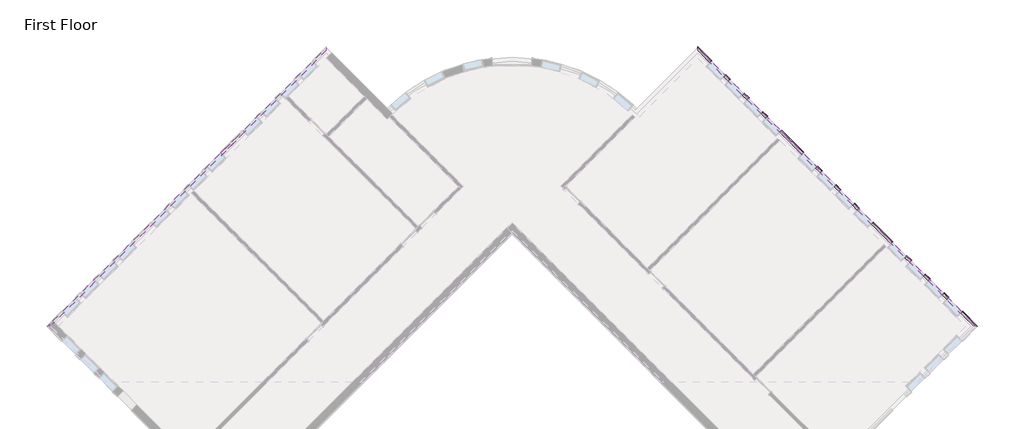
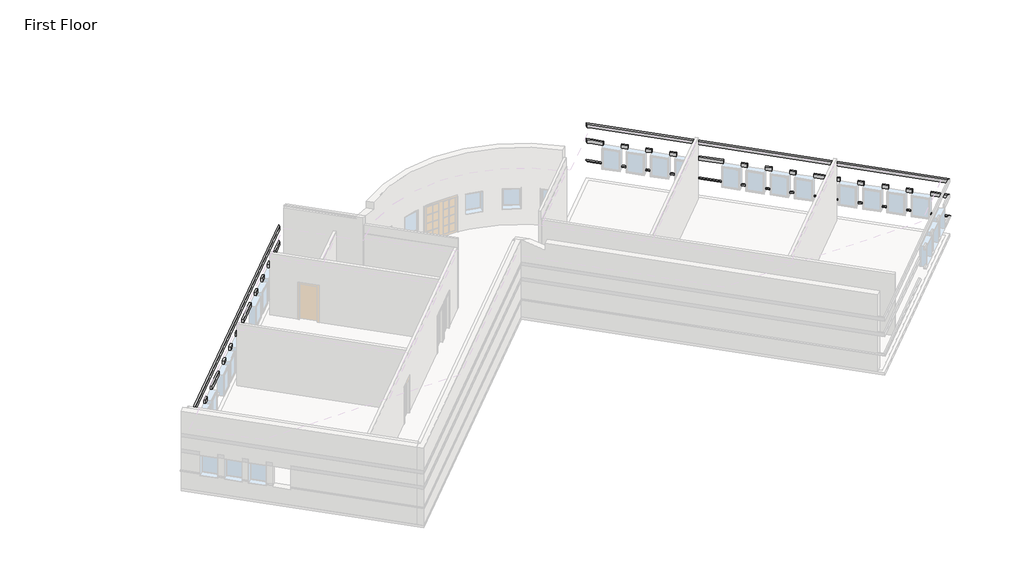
# One storey, part 4 of 4: 5 proxies.
"""IFC4 building model written with IfcOpenShell, lengths in millimetres."""

from ifc_helpers import new_model, si_unit, origin, place, context, project, spatial, faceted_brep, element, save

model = new_model("IFC4")

# Units and contexts
model_context = context("Model", 3, world=origin())
ifc_project = project(units=[si_unit("LENGTHUNIT", "METRE", prefix="MILLI")], contexts=[model_context])

# Site, building, storey
site = spatial("IfcSite", under=ifc_project)
building = spatial("IfcBuilding", under=site)
storey = spatial("IfcBuildingStorey", under=building, Name="First Floor", Elevation=0.0)

# Proxies
placement = place(None, origin())
element("IfcBuildingElementProxy", 1, Name="Wall Sweeps", at=placement, inside=storey, context=model_context, shape_type="Brep", body=[
    faceted_brep([(5753.0175119, 11443.3655905, 1085.85), (5753.0175119, 11573.5793042, 1085.85), (5753.0175119, 11622.9707129, 1041.4), (5753.0175119, 11622.9707129, 1016.0), (5753.0175119, 11443.3655905, 1016.0), (6317.415551, 10878.9675514, 1085.85), (6317.415551, 10878.9675514, 1016.0), (6382.5224079, 10944.0744083, 1016.0), (6407.2181122, 10968.7701126, 1016.0), (6407.2181122, 10968.7701126, 1041.4), (6382.5224079, 10944.0744083, 1085.85), (5937.1127624, 11259.27034, 1085.85), (5937.1127624, 11259.27034, 1016.0)], [[[0, 1, 2, 3, 4]], [[5, 6, 7, 8, 9, 10]], [[1, 0, 11, 5, 10]], [[2, 1, 10, 9]], [[3, 2, 9, 8]], [[4, 3, 8, 7, 6, 12]], [[0, 4, 12, 6, 5, 11]]]),
    faceted_brep([(6963.9939917, 10232.3891107, 1085.85), (7029.1008486, 10297.4959676, 1085.85), (7053.7965529, 10322.1916719, 1041.4), (7053.7965529, 10322.1916719, 1016.0), (7029.1008486, 10297.4959676, 1016.0), (6963.9939917, 10232.3891107, 1016.0), (7179.5201386, 10016.8629638, 1085.85), (7179.5201386, 10016.8629638, 1016.0), (7244.6269955, 10081.9698207, 1016.0), (7269.3226998, 10106.665525, 1016.0), (7269.3226998, 10106.665525, 1041.4), (7244.6269955, 10081.9698207, 1085.85)], [[[0, 1, 2, 3, 4, 5]], [[6, 7, 8, 9, 10, 11]], [[1, 0, 6, 11]], [[2, 1, 11, 10]], [[3, 2, 10, 9]], [[5, 4, 3, 9, 8, 7]], [[0, 5, 7, 6]]]),
    faceted_brep([(7826.0985793, 9370.2845231, 1085.85), (7891.2054362, 9435.39138, 1085.85), (7915.9011405, 9460.0870843, 1041.4), (7915.9011405, 9460.0870843, 1016.0), (7891.2054362, 9435.39138, 1016.0), (7826.0985793, 9370.2845231, 1016.0), (8041.6247262, 9154.7583762, 1085.85), (8041.6247262, 9154.7583762, 1016.0), (8106.7315831, 9219.8652331, 1016.0), (8131.4272874, 9244.5609374, 1016.0), (8131.4272874, 9244.5609374, 1041.4), (8106.7315831, 9219.8652331, 1085.85)], [[[0, 1, 2, 3, 4, 5]], [[6, 7, 8, 9, 10, 11]], [[1, 0, 6, 11]], [[2, 1, 11, 10]], [[3, 2, 10, 9]], [[5, 4, 3, 9, 8, 7]], [[0, 5, 7, 6]]]),
    faceted_brep([(8688.2031669, 8508.1799355, 1085.85), (8753.3100238, 8573.2867923, 1085.85), (8778.0057282, 8597.9824967, 1041.4), (8778.0057282, 8597.9824967, 1016.0), (8753.3100238, 8573.2867923, 1016.0), (8688.2031669, 8508.1799355, 1016.0), (8903.7293139, 8292.6537886, 1085.85), (8903.7293139, 8292.6537886, 1016.0), (8968.8361707, 8357.7606454, 1016.0), (8993.5318751, 8382.4563498, 1016.0), (8993.5318751, 8382.4563498, 1041.4), (8968.8361707, 8357.7606454, 1085.85)], [[[0, 1, 2, 3, 4, 5]], [[6, 7, 8, 9, 10, 11]], [[1, 0, 6, 11]], [[2, 1, 11, 10]], [[3, 2, 10, 9]], [[5, 4, 3, 9, 8, 7]], [[0, 5, 7, 6]]]),
    faceted_brep([(9550.3077546, 7646.0753478, 1085.85), (9615.4146114, 7711.1822047, 1085.85), (9640.1103158, 7735.877909, 1041.4), (9640.1103158, 7735.877909, 1016.0), (9615.4146114, 7711.1822047, 1016.0), (9550.3077546, 7646.0753478, 1016.0), (10574.7639411, 6621.6191613, 1085.85), (10574.7639411, 6621.6191613, 1016.0), (10639.870798, 6686.7260182, 1016.0), (10664.5665023, 6711.4217225, 1016.0), (10664.5665023, 6711.4217225, 1041.4), (10639.870798, 6686.7260182, 1085.85)], [[[0, 1, 2, 3, 4, 5]], [[6, 7, 8, 9, 10, 11]], [[1, 0, 6, 11]], [[2, 1, 11, 10]], [[3, 2, 10, 9]], [[5, 4, 3, 9, 8, 7]], [[0, 5, 7, 6]]]),
    faceted_brep([(11221.3423818, 5975.0407206, 1085.85), (11286.4492387, 6040.1475775, 1085.85), (11311.144943, 6064.8432818, 1041.4), (11311.144943, 6064.8432818, 1016.0), (11286.4492387, 6040.1475775, 1016.0), (11221.3423818, 5975.0407206, 1016.0), (11436.8685287, 5759.5145737, 1085.85), (11436.8685287, 5759.5145737, 1016.0), (11501.9753856, 5824.6214306, 1016.0), (11526.6710899, 5849.3171349, 1016.0), (11526.6710899, 5849.3171349, 1041.4), (11501.9753856, 5824.6214306, 1085.85)], [[[0, 1, 2, 3, 4, 5]], [[6, 7, 8, 9, 10, 11]], [[1, 0, 6, 11]], [[2, 1, 11, 10]], [[3, 2, 10, 9]], [[5, 4, 3, 9, 8, 7]], [[0, 5, 7, 6]]]),
    faceted_brep([(12083.4469694, 5112.936133, 1085.85), (12148.5538263, 5178.0429899, 1085.85), (12173.2495306, 5202.7386942, 1041.4), (12173.2495306, 5202.7386942, 1016.0), (12148.5538263, 5178.0429899, 1016.0), (12083.4469694, 5112.936133, 1016.0), (12298.9731163, 4897.4099861, 1085.85), (12298.9731163, 4897.4099861, 1016.0), (12364.0799732, 4962.516843, 1016.0), (12388.7756775, 4987.2125473, 1016.0), (12388.7756775, 4987.2125473, 1041.4), (12364.0799732, 4962.516843, 1085.85)], [[[0, 1, 2, 3, 4, 5]], [[6, 7, 8, 9, 10, 11]], [[1, 0, 6, 11]], [[2, 1, 11, 10]], [[3, 2, 10, 9]], [[5, 4, 3, 9, 8, 7]], [[0, 5, 7, 6]]]),
    faceted_brep([(12945.551557, 4250.8315454, 1085.85), (13010.6584139, 4315.9384023, 1085.85), (13035.3541182, 4340.6341066, 1041.4), (13035.3541182, 4340.6341066, 1016.0), (13010.6584139, 4315.9384023, 1016.0), (12945.551557, 4250.8315454, 1016.0), (13161.0777039, 4035.3053985, 1085.85), (13161.0777039, 4035.3053985, 1016.0), (13226.1845608, 4100.4122553, 1016.0), (13250.8802652, 4125.1079597, 1016.0), (13250.8802652, 4125.1079597, 1041.4), (13226.1845608, 4100.4122553, 1085.85)], [[[0, 1, 2, 3, 4, 5]], [[6, 7, 8, 9, 10, 11]], [[1, 0, 6, 11]], [[2, 1, 11, 10]], [[3, 2, 10, 9]], [[5, 4, 3, 9, 8, 7]], [[0, 5, 7, 6]]]),
    faceted_brep([(13807.6561447, 3388.7269578, 1085.85), (13872.7630015, 3453.8338146, 1085.85), (13897.4587059, 3478.529519, 1041.4), (13897.4587059, 3478.529519, 1016.0), (13872.7630015, 3453.8338146, 1016.0), (13807.6561447, 3388.7269578, 1016.0), (14723.1708449, 2473.2122576, 1085.85), (14723.1708449, 2473.2122576, 1016.0), (14788.2777017, 2538.3191144, 1016.0), (14812.9734061, 2563.0148188, 1016.0), (14812.9734061, 2563.0148188, 1041.4), (14788.2777017, 2538.3191144, 1085.85)], [[[0, 1, 2, 3, 4, 5]], [[6, 7, 8, 9, 10, 11]], [[1, 0, 6, 11]], [[2, 1, 11, 10]], [[3, 2, 10, 9]], [[5, 4, 3, 9, 8, 7]], [[0, 5, 7, 6]]]),
    faceted_brep([(15369.7492856, 1826.6338168, 1085.85), (15434.8561424, 1891.7406737, 1085.85), (15459.5518468, 1916.4363781, 1041.4), (15459.5518468, 1916.4363781, 1016.0), (15434.8561424, 1891.7406737, 1016.0), (15369.7492856, 1826.6338168, 1016.0), (15585.2754325, 1611.1076699, 1085.85), (15585.2754325, 1611.1076699, 1016.0), (15650.3822894, 1676.2145268, 1016.0), (15675.0779937, 1700.9102311, 1016.0), (15675.0779937, 1700.9102311, 1041.4), (15650.3822894, 1676.2145268, 1085.85)], [[[0, 1, 2, 3, 4, 5]], [[6, 7, 8, 9, 10, 11]], [[1, 0, 6, 11]], [[2, 1, 11, 10]], [[3, 2, 10, 9]], [[5, 4, 3, 9, 8, 7]], [[0, 5, 7, 6]]]),
    faceted_brep([(16231.8538732, 964.5292292, 1085.85), (16296.9607301, 1029.6360861, 1085.85), (16321.6564344, 1054.3317904, 1041.4), (16321.6564344, 1054.3317904, 1016.0), (16296.9607301, 1029.6360861, 1016.0), (16231.8538732, 964.5292292, 1016.0), (16447.3800201, 749.0030823, 1085.85), (16447.3800201, 749.0030823, 1016.0), (16512.486877, 814.1099392, 1016.0), (16537.1825813, 838.8056435, 1016.0), (16537.1825813, 838.8056435, 1041.4), (16512.486877, 814.1099392, 1085.85)], [[[0, 1, 2, 3, 4, 5]], [[6, 7, 8, 9, 10, 11]], [[1, 0, 6, 11]], [[2, 1, 11, 10]], [[3, 2, 10, 9]], [[5, 4, 3, 9, 8, 7]], [[0, 5, 7, 6]]]),
    faceted_brep([(17093.9584608, 102.4246416, 1085.85), (17159.0653177, 167.5314985, 1085.85), (17183.761022, 192.2272028, 1041.4), (17183.761022, 192.2272028, 1016.0), (17159.0653177, 167.5314985, 1016.0), (17093.9584608, 102.4246416, 1016.0), (17309.4846077, -113.1015053, 1085.85), (17309.4846077, -113.1015053, 1016.0), (17374.5914646, -47.9946484, 1016.0), (17399.2871689, -23.2989441, 1016.0), (17399.2871689, -23.2989441, 1041.4), (17374.5914646, -47.9946484, 1085.85)], [[[0, 1, 2, 3, 4, 5]], [[6, 7, 8, 9, 10, 11]], [[1, 0, 6, 11]], [[2, 1, 11, 10]], [[3, 2, 10, 9]], [[5, 4, 3, 9, 8, 7]], [[0, 5, 7, 6]]]),
    faceted_brep([(17956.0630484, -759.679946, 1085.85), (18021.1699053, -694.5730891, 1085.85), (18045.8656096, -669.8773848, 1041.4), (18045.8656096, -669.8773848, 1016.0), (18021.1699053, -694.5730891, 1016.0), (17956.0630484, -759.679946, 1016.0), (18554.3726125, -1357.9895101, 1085.85), (18554.3726125, -1357.9895101, 1016.0), (18733.9777349, -1357.9895101, 1016.0), (18733.9777349, -1357.9895101, 1041.4), (18684.5863263, -1357.9895101, 1085.85)], [[[0, 1, 2, 3, 4, 5]], [[6, 7, 8, 9, 10]], [[1, 0, 6, 10]], [[2, 1, 10, 9]], [[3, 2, 9, 8]], [[5, 4, 3, 8, 7]], [[0, 5, 7, 6]]]),
])
element("IfcBuildingElementProxy", 2, Name="Wall Sweeps", at=placement, inside=storey, context=model_context, shape_type="Brep", body=[
    faceted_brep([(5753.0175119, 11573.5793042, 2336.8), (5753.0175119, 11573.5793042, 2133.6), (5753.0175119, 11443.3655905, 2133.6), (5753.0175119, 11443.3655905, 2336.8), (6382.5224079, 10944.0744083, 2336.8), (6317.415551, 10878.9675514, 2336.8), (6317.415551, 10878.9675514, 2133.6), (6382.5224079, 10944.0744083, 2133.6), (6002.2196193, 11324.3771969, 2336.8), (6002.2196193, 11324.3771969, 2133.6), (5937.1127624, 11259.27034, 2133.6), (5937.1127624, 11259.27034, 2336.8)], [[[0, 1, 2, 3]], [[4, 5, 6, 7]], [[1, 0, 8, 4, 7, 9]], [[2, 1, 9, 7, 6, 10]], [[3, 2, 10, 6, 5, 11]], [[0, 3, 11, 5, 4, 8]]]),
    faceted_brep([(7029.1008486, 10297.4959676, 2336.8), (7029.1008486, 10297.4959676, 2133.6), (6963.9939917, 10232.3891107, 2133.6), (6963.9939917, 10232.3891107, 2336.8), (7244.6269955, 10081.9698207, 2336.8), (7179.5201386, 10016.8629638, 2336.8), (7179.5201386, 10016.8629638, 2133.6), (7244.6269955, 10081.9698207, 2133.6)], [[[0, 1, 2, 3]], [[4, 5, 6, 7]], [[1, 0, 4, 7]], [[2, 1, 7, 6]], [[3, 2, 6, 5]], [[0, 3, 5, 4]]]),
    faceted_brep([(7891.2054362, 9435.39138, 2336.8), (7891.2054362, 9435.39138, 2133.6), (7826.0985793, 9370.2845231, 2133.6), (7826.0985793, 9370.2845231, 2336.8), (8106.7315831, 9219.8652331, 2336.8), (8041.6247262, 9154.7583762, 2336.8), (8041.6247262, 9154.7583762, 2133.6), (8106.7315831, 9219.8652331, 2133.6)], [[[0, 1, 2, 3]], [[4, 5, 6, 7]], [[1, 0, 4, 7]], [[2, 1, 7, 6]], [[3, 2, 6, 5]], [[0, 3, 5, 4]]]),
    faceted_brep([(8753.3100238, 8573.2867923, 2336.8), (8753.3100238, 8573.2867923, 2133.6), (8688.2031669, 8508.1799355, 2133.6), (8688.2031669, 8508.1799355, 2336.8), (8968.8361707, 8357.7606454, 2336.8), (8903.7293139, 8292.6537886, 2336.8), (8903.7293139, 8292.6537886, 2133.6), (8968.8361707, 8357.7606454, 2133.6)], [[[0, 1, 2, 3]], [[4, 5, 6, 7]], [[1, 0, 4, 7]], [[2, 1, 7, 6]], [[3, 2, 6, 5]], [[0, 3, 5, 4]]]),
    faceted_brep([(9615.4146114, 7711.1822047, 2336.8), (9615.4146114, 7711.1822047, 2133.6), (9550.3077546, 7646.0753478, 2133.6), (9550.3077546, 7646.0753478, 2336.8), (10639.870798, 6686.7260182, 2336.8), (10574.7639411, 6621.6191613, 2336.8), (10574.7639411, 6621.6191613, 2133.6), (10639.870798, 6686.7260182, 2133.6)], [[[0, 1, 2, 3]], [[4, 5, 6, 7]], [[1, 0, 4, 7]], [[2, 1, 7, 6]], [[3, 2, 6, 5]], [[0, 3, 5, 4]]]),
    faceted_brep([(11286.4492387, 6040.1475775, 2336.8), (11286.4492387, 6040.1475775, 2133.6), (11221.3423818, 5975.0407206, 2133.6), (11221.3423818, 5975.0407206, 2336.8), (11501.9753856, 5824.6214306, 2336.8), (11436.8685287, 5759.5145737, 2336.8), (11436.8685287, 5759.5145737, 2133.6), (11501.9753856, 5824.6214306, 2133.6)], [[[0, 1, 2, 3]], [[4, 5, 6, 7]], [[1, 0, 4, 7]], [[2, 1, 7, 6]], [[3, 2, 6, 5]], [[0, 3, 5, 4]]]),
    faceted_brep([(12148.5538263, 5178.0429899, 2336.8), (12148.5538263, 5178.0429899, 2133.6), (12083.4469694, 5112.936133, 2133.6), (12083.4469694, 5112.936133, 2336.8), (12364.0799732, 4962.516843, 2336.8), (12298.9731163, 4897.4099861, 2336.8), (12298.9731163, 4897.4099861, 2133.6), (12364.0799732, 4962.516843, 2133.6)], [[[0, 1, 2, 3]], [[4, 5, 6, 7]], [[1, 0, 4, 7]], [[2, 1, 7, 6]], [[3, 2, 6, 5]], [[0, 3, 5, 4]]]),
    faceted_brep([(13010.6584139, 4315.9384023, 2336.8), (13010.6584139, 4315.9384023, 2133.6), (12945.551557, 4250.8315454, 2133.6), (12945.551557, 4250.8315454, 2336.8), (13226.1845608, 4100.4122553, 2336.8), (13161.0777039, 4035.3053985, 2336.8), (13161.0777039, 4035.3053985, 2133.6), (13226.1845608, 4100.4122553, 2133.6)], [[[0, 1, 2, 3]], [[4, 5, 6, 7]], [[1, 0, 4, 7]], [[2, 1, 7, 6]], [[3, 2, 6, 5]], [[0, 3, 5, 4]]]),
    faceted_brep([(13872.7630015, 3453.8338146, 2336.8), (13872.7630015, 3453.8338146, 2133.6), (13807.6561447, 3388.7269578, 2133.6), (13807.6561447, 3388.7269578, 2336.8), (14788.2777017, 2538.3191144, 2336.8), (14723.1708449, 2473.2122576, 2336.8), (14723.1708449, 2473.2122576, 2133.6), (14788.2777017, 2538.3191144, 2133.6)], [[[0, 1, 2, 3]], [[4, 5, 6, 7]], [[1, 0, 4, 7]], [[2, 1, 7, 6]], [[3, 2, 6, 5]], [[0, 3, 5, 4]]]),
    faceted_brep([(15434.8561424, 1891.7406737, 2336.8), (15434.8561424, 1891.7406737, 2133.6), (15369.7492856, 1826.6338168, 2133.6), (15369.7492856, 1826.6338168, 2336.8), (15650.3822894, 1676.2145268, 2336.8), (15585.2754325, 1611.1076699, 2336.8), (15585.2754325, 1611.1076699, 2133.6), (15650.3822894, 1676.2145268, 2133.6)], [[[0, 1, 2, 3]], [[4, 5, 6, 7]], [[1, 0, 4, 7]], [[2, 1, 7, 6]], [[3, 2, 6, 5]], [[0, 3, 5, 4]]]),
    faceted_brep([(16296.9607301, 1029.6360861, 2336.8), (16296.9607301, 1029.6360861, 2133.6), (16231.8538732, 964.5292292, 2133.6), (16231.8538732, 964.5292292, 2336.8), (16512.486877, 814.1099392, 2336.8), (16447.3800201, 749.0030823, 2336.8), (16447.3800201, 749.0030823, 2133.6), (16512.486877, 814.1099392, 2133.6)], [[[0, 1, 2, 3]], [[4, 5, 6, 7]], [[1, 0, 4, 7]], [[2, 1, 7, 6]], [[3, 2, 6, 5]], [[0, 3, 5, 4]]]),
    faceted_brep([(17159.0653177, 167.5314985, 2336.8), (17159.0653177, 167.5314985, 2133.6), (17093.9584608, 102.4246416, 2133.6), (17093.9584608, 102.4246416, 2336.8), (17374.5914646, -47.9946484, 2336.8), (17309.4846077, -113.1015053, 2336.8), (17309.4846077, -113.1015053, 2133.6), (17374.5914646, -47.9946484, 2133.6)], [[[0, 1, 2, 3]], [[4, 5, 6, 7]], [[1, 0, 4, 7]], [[2, 1, 7, 6]], [[3, 2, 6, 5]], [[0, 3, 5, 4]]]),
    faceted_brep([(18021.1699053, -694.5730891, 2336.8), (18021.1699053, -694.5730891, 2133.6), (17956.0630484, -759.679946, 2133.6), (17956.0630484, -759.679946, 2336.8), (18684.5863263, -1357.9895101, 2336.8), (18554.3726125, -1357.9895101, 2336.8), (18554.3726125, -1357.9895101, 2133.6), (18684.5863263, -1357.9895101, 2133.6)], [[[0, 1, 2, 3]], [[4, 5, 6, 7]], [[1, 0, 4, 7]], [[2, 1, 7, 6]], [[3, 2, 6, 5]], [[0, 3, 5, 4]]]),
])
element("IfcBuildingElementProxy", 3, Name="Wall Sweeps", at=placement, inside=storey, context=model_context, shape_type="Brep", body=[
    faceted_brep([(5753.0175119, 11573.5793042, 3251.2), (5753.0175119, 11573.5793042, 3048.0), (5753.0175119, 11443.3655905, 3048.0), (5753.0175119, 11443.3655905, 3251.2), (18684.5863263, -1357.9895101, 3251.2), (18554.3726125, -1357.9895101, 3251.2), (18554.3726125, -1357.9895101, 3048.0), (18684.5863263, -1357.9895101, 3048.0), (6002.2196193, 11324.3771969, 3251.2), (6002.2196193, 11324.3771969, 3048.0), (5937.1127624, 11259.27034, 3048.0), (5937.1127624, 11259.27034, 3251.2)], [[[0, 1, 2, 3]], [[4, 5, 6, 7]], [[1, 0, 8, 4, 7, 9]], [[2, 1, 9, 7, 6, 10]], [[3, 2, 10, 6, 5, 11]], [[0, 3, 11, 5, 4, 8]]]),
])
element("IfcBuildingElementProxy", 4, Name="Wall Sweeps", at=placement, inside=storey, context=model_context, shape_type="Brep", body=[
    faceted_brep([(-24420.6430549, -1357.9895101, 2336.8), (-24420.6430549, -1357.9895101, 2133.6), (-24290.4293411, -1357.9895101, 2133.6), (-24290.4293411, -1357.9895101, 2336.8), (-23757.2266339, -694.5730891, 2336.8), (-23692.119777, -759.679946, 2336.8), (-23692.119777, -759.679946, 2133.6), (-23757.2266339, -694.5730891, 2133.6), (-24171.4409475, -1108.7874027, 2336.8), (-24171.4409475, -1108.7874027, 2133.6), (-24106.3340906, -1173.8942596, 2133.6), (-24106.3340906, -1173.8942596, 2336.8)], [[[0, 1, 2, 3]], [[4, 5, 6, 7]], [[1, 0, 8, 4, 7, 9]], [[2, 1, 9, 7, 6, 10]], [[3, 2, 10, 6, 5, 11]], [[0, 3, 11, 5, 4, 8]]]),
    faceted_brep([(-23110.6481932, -47.9946484, 2336.8), (-23110.6481932, -47.9946484, 2133.6), (-23045.5413363, -113.1015053, 2133.6), (-23045.5413363, -113.1015053, 2336.8), (-22895.1220463, 167.5314985, 2336.8), (-22830.0151894, 102.4246416, 2336.8), (-22830.0151894, 102.4246416, 2133.6), (-22895.1220463, 167.5314985, 2133.6)], [[[0, 1, 2, 3]], [[4, 5, 6, 7]], [[1, 0, 4, 7]], [[2, 1, 7, 6]], [[3, 2, 6, 5]], [[0, 3, 5, 4]]]),
    faceted_brep([(-22248.5436056, 814.1099392, 2336.8), (-22248.5436056, 814.1099392, 2133.6), (-22183.4367487, 749.0030823, 2133.6), (-22183.4367487, 749.0030823, 2336.8), (-22033.0174587, 1029.6360861, 2336.8), (-21967.9106018, 964.5292292, 2336.8), (-21967.9106018, 964.5292292, 2133.6), (-22033.0174587, 1029.6360861, 2133.6)], [[[0, 1, 2, 3]], [[4, 5, 6, 7]], [[1, 0, 4, 7]], [[2, 1, 7, 6]], [[3, 2, 6, 5]], [[0, 3, 5, 4]]]),
    faceted_brep([(-21386.439018, 1676.2145268, 2336.8), (-21386.439018, 1676.2145268, 2133.6), (-21321.3321611, 1611.1076699, 2133.6), (-21321.3321611, 1611.1076699, 2336.8), (-21170.9128711, 1891.7406737, 2336.8), (-21105.8060142, 1826.6338168, 2336.8), (-21105.8060142, 1826.6338168, 2133.6), (-21170.9128711, 1891.7406737, 2133.6)], [[[0, 1, 2, 3]], [[4, 5, 6, 7]], [[1, 0, 4, 7]], [[2, 1, 7, 6]], [[3, 2, 6, 5]], [[0, 3, 5, 4]]]),
    faceted_brep([(-20524.3344303, 2538.3191144, 2336.8), (-20524.3344303, 2538.3191144, 2133.6), (-20459.2275735, 2473.2122576, 2133.6), (-20459.2275735, 2473.2122576, 2336.8), (-19608.8197301, 3453.8338146, 2336.8), (-19543.7128733, 3388.7269578, 2336.8), (-19543.7128733, 3388.7269578, 2133.6), (-19608.8197301, 3453.8338146, 2133.6)], [[[0, 1, 2, 3]], [[4, 5, 6, 7]], [[1, 0, 4, 7]], [[2, 1, 7, 6]], [[3, 2, 6, 5]], [[0, 3, 5, 4]]]),
    faceted_brep([(-18962.2412894, 4100.4122553, 2336.8), (-18962.2412894, 4100.4122553, 2133.6), (-18897.1344326, 4035.3053985, 2133.6), (-18897.1344326, 4035.3053985, 2336.8), (-18746.7151425, 4315.9384023, 2336.8), (-18681.6082856, 4250.8315454, 2336.8), (-18681.6082856, 4250.8315454, 2133.6), (-18746.7151425, 4315.9384023, 2133.6)], [[[0, 1, 2, 3]], [[4, 5, 6, 7]], [[1, 0, 4, 7]], [[2, 1, 7, 6]], [[3, 2, 6, 5]], [[0, 3, 5, 4]]]),
    faceted_brep([(-18100.1367018, 4962.516843, 2336.8), (-18100.1367018, 4962.516843, 2133.6), (-18035.0298449, 4897.4099861, 2133.6), (-18035.0298449, 4897.4099861, 2336.8), (-17884.6105549, 5178.0429899, 2336.8), (-17819.503698, 5112.936133, 2336.8), (-17819.503698, 5112.936133, 2133.6), (-17884.6105549, 5178.0429899, 2133.6)], [[[0, 1, 2, 3]], [[4, 5, 6, 7]], [[1, 0, 4, 7]], [[2, 1, 7, 6]], [[3, 2, 6, 5]], [[0, 3, 5, 4]]]),
    faceted_brep([(-17238.0321142, 5824.6214306, 2336.8), (-17238.0321142, 5824.6214306, 2133.6), (-17172.9252573, 5759.5145737, 2133.6), (-17172.9252573, 5759.5145737, 2336.8), (-17022.5059673, 6040.1475775, 2336.8), (-16957.3991104, 5975.0407206, 2336.8), (-16957.3991104, 5975.0407206, 2133.6), (-17022.5059673, 6040.1475775, 2133.6)], [[[0, 1, 2, 3]], [[4, 5, 6, 7]], [[1, 0, 4, 7]], [[2, 1, 7, 6]], [[3, 2, 6, 5]], [[0, 3, 5, 4]]]),
    faceted_brep([(-16375.9275266, 6686.7260182, 2336.8), (-16375.9275266, 6686.7260182, 2133.6), (-16310.8206697, 6621.6191613, 2133.6), (-16310.8206697, 6621.6191613, 2336.8), (-15351.4713401, 7711.1822047, 2336.8), (-15286.3644832, 7646.0753478, 2336.8), (-15286.3644832, 7646.0753478, 2133.6), (-15351.4713401, 7711.1822047, 2133.6)], [[[0, 1, 2, 3]], [[4, 5, 6, 7]], [[1, 0, 4, 7]], [[2, 1, 7, 6]], [[3, 2, 6, 5]], [[0, 3, 5, 4]]]),
    faceted_brep([(-14704.8928993, 8357.7606454, 2336.8), (-14704.8928993, 8357.7606454, 2133.6), (-14639.7860425, 8292.6537886, 2133.6), (-14639.7860425, 8292.6537886, 2336.8), (-14489.3667524, 8573.2867923, 2336.8), (-14424.2598956, 8508.1799355, 2336.8), (-14424.2598956, 8508.1799355, 2133.6), (-14489.3667524, 8573.2867923, 2133.6)], [[[0, 1, 2, 3]], [[4, 5, 6, 7]], [[1, 0, 4, 7]], [[2, 1, 7, 6]], [[3, 2, 6, 5]], [[0, 3, 5, 4]]]),
    faceted_brep([(-13842.7883117, 9219.8652331, 2336.8), (-13842.7883117, 9219.8652331, 2133.6), (-13777.6814548, 9154.7583762, 2133.6), (-13777.6814548, 9154.7583762, 2336.8), (-13627.2621648, 9435.39138, 2336.8), (-13562.1553079, 9370.2845231, 2336.8), (-13562.1553079, 9370.2845231, 2133.6), (-13627.2621648, 9435.39138, 2133.6)], [[[0, 1, 2, 3]], [[4, 5, 6, 7]], [[1, 0, 4, 7]], [[2, 1, 7, 6]], [[3, 2, 6, 5]], [[0, 3, 5, 4]]]),
    faceted_brep([(-12980.6837241, 10081.9698207, 2336.8), (-12980.6837241, 10081.9698207, 2133.6), (-12915.5768672, 10016.8629638, 2133.6), (-12915.5768672, 10016.8629638, 2336.8), (-12765.1575772, 10297.4959676, 2336.8), (-12700.0507203, 10232.3891107, 2336.8), (-12700.0507203, 10232.3891107, 2133.6), (-12765.1575772, 10297.4959676, 2133.6)], [[[0, 1, 2, 3]], [[4, 5, 6, 7]], [[1, 0, 4, 7]], [[2, 1, 7, 6]], [[3, 2, 6, 5]], [[0, 3, 5, 4]]]),
    faceted_brep([(-12118.5791365, 10944.0744083, 2336.8), (-12118.5791365, 10944.0744083, 2133.6), (-12053.4722796, 10878.9675514, 2133.6), (-12053.4722796, 10878.9675514, 2336.8), (-11489.0742405, 11573.5793042, 2336.8), (-11489.0742405, 11443.3655905, 2336.8), (-11489.0742405, 11443.3655905, 2133.6), (-11489.0742405, 11573.5793042, 2133.6)], [[[0, 1, 2, 3]], [[4, 5, 6, 7]], [[1, 0, 4, 7]], [[2, 1, 7, 6]], [[3, 2, 6, 5]], [[0, 3, 5, 4]]]),
])
element("IfcBuildingElementProxy", 5, Name="Wall Sweeps", at=placement, inside=storey, context=model_context, shape_type="Brep", body=[
    faceted_brep([(-24420.6430549, -1357.9895101, 3251.2), (-24420.6430549, -1357.9895101, 3048.0), (-24290.4293411, -1357.9895101, 3048.0), (-24290.4293411, -1357.9895101, 3251.2), (-11489.0742405, 11573.5793042, 3251.2), (-11489.0742405, 11443.3655905, 3251.2), (-11489.0742405, 11443.3655905, 3048.0), (-11489.0742405, 11573.5793042, 3048.0), (-24171.4409475, -1108.7874027, 3251.2), (-24171.4409475, -1108.7874027, 3048.0), (-24106.3340906, -1173.8942596, 3048.0), (-24106.3340906, -1173.8942596, 3251.2)], [[[0, 1, 2, 3]], [[4, 5, 6, 7]], [[1, 0, 8, 4, 7, 9]], [[2, 1, 9, 7, 6, 10]], [[3, 2, 10, 6, 5, 11]], [[0, 3, 11, 5, 4, 8]]]),
])

save(model, "model.ifc")
